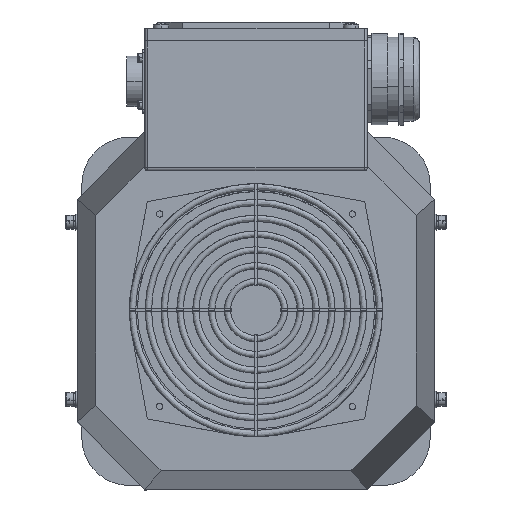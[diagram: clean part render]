
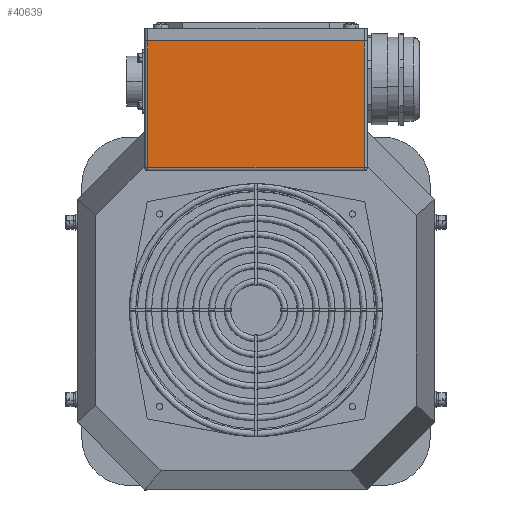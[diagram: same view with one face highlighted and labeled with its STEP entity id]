
A CAD part, top view. The second image highlights one B-rep face of the part: STEP entity #40639.
In plain terms, the highlighted planar face has unit normal (0, 0, 1).
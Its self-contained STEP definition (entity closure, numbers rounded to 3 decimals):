
#2338 = EDGE_CURVE ( 'NONE', #26028, #29298, #59977, .T. ) ;
#4592 = VERTEX_POINT ( 'NONE', #40683 ) ;
#7528 = VECTOR ( 'NONE', #41345, 1000. ) ;
#9099 = ORIENTED_EDGE ( 'NONE', *, *, #2338, .F. ) ;
#9301 = CARTESIAN_POINT ( 'NONE',  ( -68.25, 90., 430. ) ) ;
#9887 = LINE ( 'NONE', #24662, #12150 ) ;
#10955 = DIRECTION ( 'NONE',  ( 0., 1., 0. ) ) ;
#12150 = VECTOR ( 'NONE', #34750, 1000. ) ;
#12718 = DIRECTION ( 'NONE',  ( -1., 0., 0. ) ) ;
#19019 = CARTESIAN_POINT ( 'NONE',  ( -68.25, 170., 430. ) ) ;
#20108 = AXIS2_PLACEMENT_3D ( 'NONE', #27335, #26928, #46238 ) ;
#24482 = LINE ( 'NONE', #46264, #57511 ) ;
#24662 = CARTESIAN_POINT ( 'NONE',  ( -68.25, 130., 430. ) ) ;
#26028 = VERTEX_POINT ( 'NONE', #19019 ) ;
#26928 = DIRECTION ( 'NONE',  ( 0., 0., -1. ) ) ;
#27335 = CARTESIAN_POINT ( 'NONE',  ( -68.25, 170., 430. ) ) ;
#28400 = CARTESIAN_POINT ( 'NONE',  ( 68.25, 170., 430. ) ) ;
#28845 = ORIENTED_EDGE ( 'NONE', *, *, #47223, .T. ) ;
#28880 = ORIENTED_EDGE ( 'NONE', *, *, #30690, .F. ) ;
#29298 = VERTEX_POINT ( 'NONE', #28400 ) ;
#30690 = EDGE_CURVE ( 'NONE', #4592, #46942, #24482, .T. ) ;
#34750 = DIRECTION ( 'NONE',  ( 0., -1., 0. ) ) ;
#34832 = LINE ( 'NONE', #45317, #46073 ) ;
#36598 = EDGE_LOOP ( 'NONE', ( #28880, #28845, #9099, #44658 ) ) ;
#40639 = ADVANCED_FACE ( 'NONE', ( #45230 ), #40997, .F. ) ;
#40683 = CARTESIAN_POINT ( 'NONE',  ( 68.25, 90., 430. ) ) ;
#40997 = PLANE ( 'NONE',  #20108 ) ;
#41345 = DIRECTION ( 'NONE',  ( 1., 0., 0. ) ) ;
#44658 = ORIENTED_EDGE ( 'NONE', *, *, #48968, .T. ) ;
#45230 = FACE_OUTER_BOUND ( 'NONE', #36598, .T. ) ;
#45317 = CARTESIAN_POINT ( 'NONE',  ( 68.25, 130., 430. ) ) ;
#46073 = VECTOR ( 'NONE', #10955, 1000. ) ;
#46238 = DIRECTION ( 'NONE',  ( 1., 0., 0. ) ) ;
#46264 = CARTESIAN_POINT ( 'NONE',  ( 0., 90., 430. ) ) ;
#46942 = VERTEX_POINT ( 'NONE', #9301 ) ;
#47027 = CARTESIAN_POINT ( 'NONE',  ( 0., 170., 430. ) ) ;
#47223 = EDGE_CURVE ( 'NONE', #4592, #29298, #34832, .T. ) ;
#48968 = EDGE_CURVE ( 'NONE', #26028, #46942, #9887, .T. ) ;
#57511 = VECTOR ( 'NONE', #12718, 1000. ) ;
#59977 = LINE ( 'NONE', #47027, #7528 ) ;
